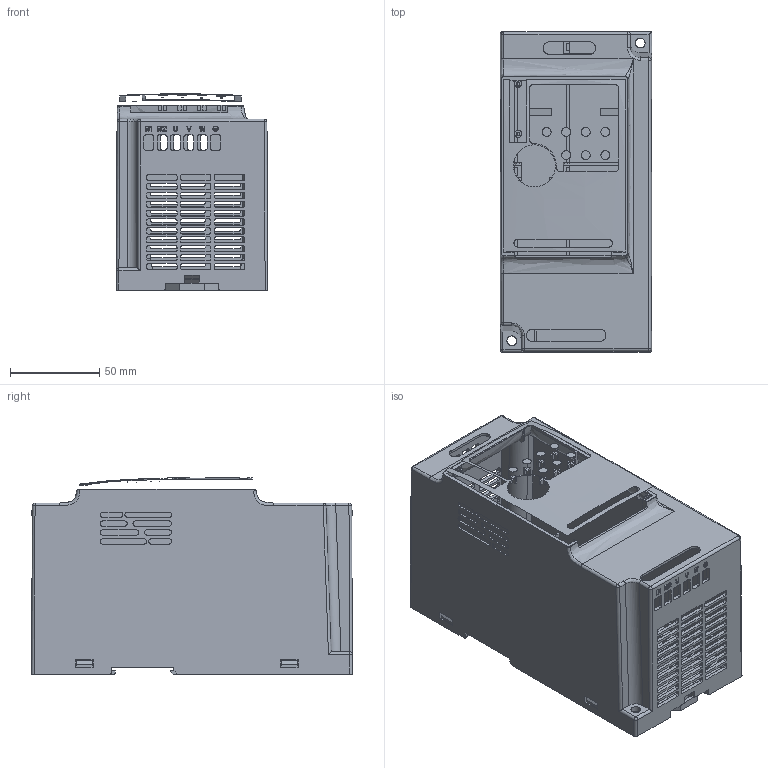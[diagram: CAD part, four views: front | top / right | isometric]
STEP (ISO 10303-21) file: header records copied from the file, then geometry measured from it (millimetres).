
FILE_DESCRIPTION (( 'STEP AP203' ), '1' );
FILE_NAME ('3_7-5_5kw.STEP', '2019-05-24T13:12:30', ( '' ), ( '' ), 'SwSTEP 2.0', 'SolidWorks 2012', '' );
FILE_SCHEMA (( 'CONFIG_CONTROL_DESIGN' ));
Length unit declared in the file: millimetre
Products named in the file (1): 3_7-5_5kw
Bounding box: 85.08 x 180.08 x 110.2 mm (x, y, z)
Surface area: 190592.9 mm2 (no closed solid volume)
Topology: 0 solids, 34 shells, 2032 faces, 5786 edges, 3843 vertices
Faces by surface type: plane 1530, cylinder 458, bspline 38, cone 6
Entity records: 81763 total; most frequent: CARTESIAN_POINT 32656, ORIENTED_EDGE 11497, DIRECTION 7787, EDGE_CURVE 5785, VERTEX_POINT 3843, VECTOR 3653, LINE 3653, EDGE_LOOP 2284
